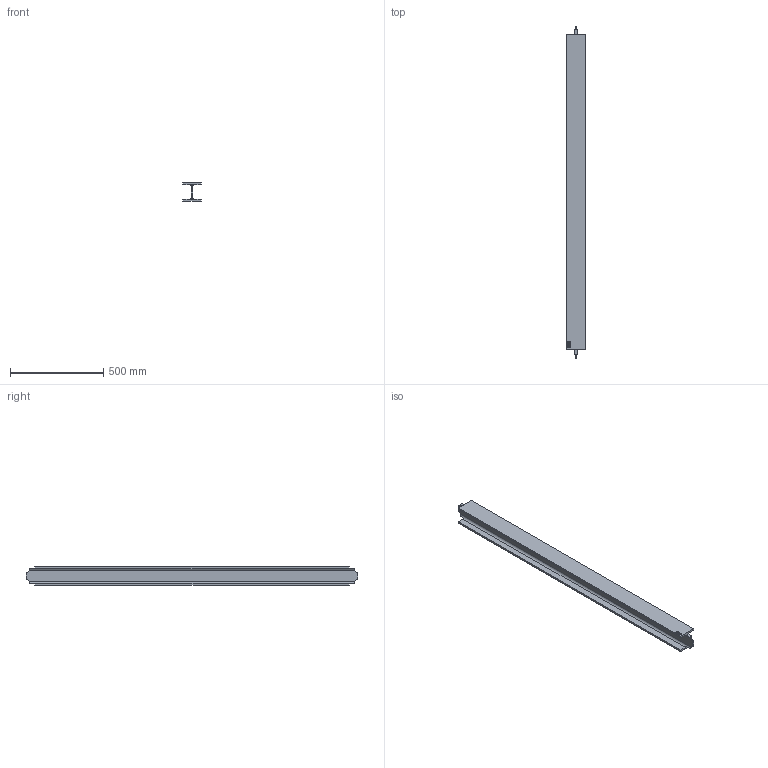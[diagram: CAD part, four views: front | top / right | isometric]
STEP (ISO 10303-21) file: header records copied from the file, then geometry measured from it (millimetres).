
FILE_DESCRIPTION (( 'STEP AP214' ), '1' );
FILE_NAME ('CCJ029-REP.083 - POUTRE A4-B5.STEP', '2025-10-31T14:36:28', ( '' ), ( '' ), 'SwSTEP 2.0', 'SolidWorks 2021', '' );
FILE_SCHEMA (( 'AUTOMOTIVE_DESIGN' ));
Length unit declared in the file: millimetre
Products named in the file (1): CCJ029-REP.083 - POUTRE A4-B5
Bounding box: 100 x 1780 x 100 mm (x, y, z)
Volume: 4428393.4 mm3; surface area: 976210.6 mm2
Topology: 1 solids, 1 shells, 79 faces, 213 edges, 142 vertices
Faces by surface type: bspline 40, plane 31, cylinder 8
Entity records: 4941 total; most frequent: CARTESIAN_POINT 3195, ORIENTED_EDGE 426, DIRECTION 221, EDGE_CURVE 213, VERTEX_POINT 142, VECTOR 109, LINE 109, B_SPLINE_CURVE_WITH_KNOTS 88
